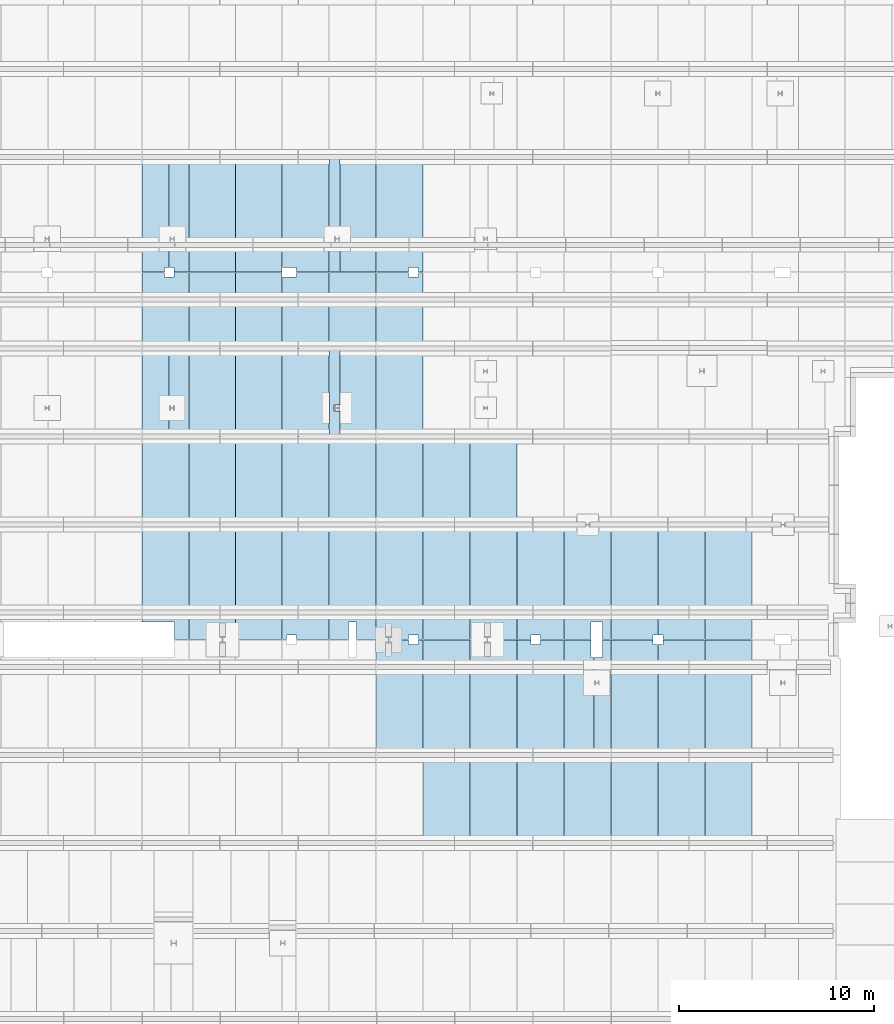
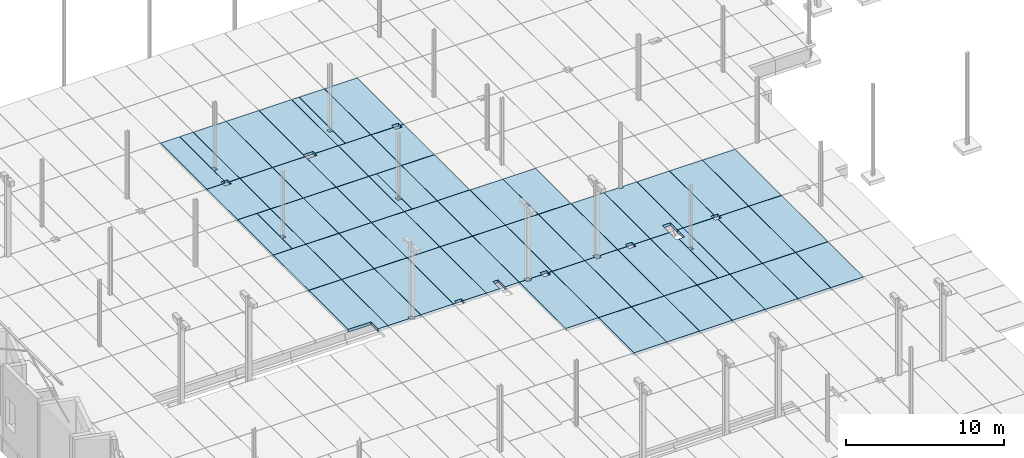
# One storey, part 50 of 59: 59 slabs.
"""IFC2X3 building model written with IfcOpenShell, lengths in metres."""

from ifc_helpers import new_model, entity, si_unit, converted_unit, derived_unit, frame, frame_2d, origin, origin_with_axes, place, context, subcontext, project, spatial, polyline, rectangle, outline, extrude, material, element, save


model = new_model("IFC2X3")

# Units and contexts
model_context = context("Model", 3, precision=1e-05, world=origin())
body_context = subcontext(model_context, "Body", "Model", "MODEL_VIEW")
ifc_project = project(units=[si_unit("LENGTHUNIT", "METRE"), si_unit("AREAUNIT", "SQUARE_METRE"), si_unit("VOLUMEUNIT", "CUBIC_METRE"), si_unit("MASSUNIT", "GRAM", prefix="KILO"), converted_unit("PLANEANGLEUNIT", "DEGREE", entity("IfcPlaneAngleMeasure", 0.0174532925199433), si_unit("PLANEANGLEUNIT", "RADIAN"), dimensions=[0, 0, 0, 0, 0, 0, 0]), derived_unit("THERMALTRANSMITTANCEUNIT", [(si_unit("POWERUNIT", "WATT"), 1), (si_unit("THERMODYNAMICTEMPERATUREUNIT", "KELVIN"), -1), (si_unit("LENGTHUNIT", "METRE"), -2)]), derived_unit("VOLUMETRICFLOWRATEUNIT", [(si_unit("LENGTHUNIT", "METRE"), 3), (converted_unit("TIMEUNIT", "hour", entity("IfcTimeMeasure", 3600.0), si_unit("TIMEUNIT", "SECOND"), dimensions=[0, 0, 1, 0, 0, 0, 0]), -1), (si_unit("LENGTHUNIT", "METRE"), -1)])], contexts=[model_context])

# Site, building, storey
site_placement = place(None, origin())
site = spatial("IfcSite", under=ifc_project, at=site_placement, Name="TWP_Speiseverteilzentrum SBW VZ II", CompositionType="ELEMENT")
building_placement = place(site_placement, origin())
building = spatial("IfcBuilding", under=site, at=building_placement, Name="Speiseverteilzentrum SBW VZ II", CompositionType="ELEMENT")
storey_placement = place(building_placement, frame((0.0, 0.0, 1.7307)))
storey = spatial("IfcBuildingStorey", under=building, at=storey_placement, Name="EG_Produktion_FFB", CompositionType="ELEMENT", Elevation=1.7307)

# Slabs
ifc_material_1 = material(Name="Stahlbetonfertigteil")
slab_1_placement = place(storey_placement, frame((43.1999999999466, 62.0100000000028, -0.47)))
element("IfcSlab", 1, at=slab_1_placement, inside=storey, material=ifc_material_1, Name="Stahlbetonfertigteilplatte", PredefinedType="BASESLAB", context=body_context, shape_type="SweptSolid", body=[
    extrude(outline(polyline([(0.240000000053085, 1.59790584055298), (0.540000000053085, 1.59790584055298), (0.540000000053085, 4.47999999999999), (0.0, 4.47999999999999), (0.0, 0.0), (0.540000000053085, 0.0), (0.540000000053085, 1.28790584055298), (0.240000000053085, 1.28790584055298), (0.240000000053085, 1.59790584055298)])), origin_with_axes(), (0.0, 0.0, 1.0), 0.22),
])
ifc_material_2 = material(Name="Stahlbetonfertigteil")
slab_2_placement = place(storey_placement, frame((43.7599999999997, 62.0100000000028, -0.47)))
element("IfcSlab", 2, at=slab_2_placement, inside=storey, material=ifc_material_2, Name="Stahlbetonfertigteilplatte", PredefinedType="BASESLAB", context=body_context, shape_type="SweptSolid", body=[
    extrude(rectangle(XDim=4.47999999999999, YDim=1.81999999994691, at=frame_2d((0.909999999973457, -2.23999999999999), x_axis=(0.0, -1.0))), frame((0.0, 4.47999999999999, 0.0), z_axis=(0.0, 0.0, 1.0), x_axis=(1.0, 0.0, 0.0)), (0.0, 0.0, 1.0), 0.22),
])
ifc_material_3 = material(Name="Stahlbetonfertigteil")
slab_3_placement = place(storey_placement, frame((33.5999999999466, 62.0100000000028, -0.47)))
element("IfcSlab", 3, at=slab_3_placement, inside=storey, material=ifc_material_3, Name="Stahlbetonfertigteilplatte", PredefinedType="BASESLAB", context=body_context, shape_type="SweptSolid", body=[
    extrude(rectangle(XDim=4.47999999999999, YDim=1.38500000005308, at=frame_2d((-0.692500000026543, 2.23999999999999), x_axis=(0.0, 1.0))), frame((1.38500000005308, 0.0, 0.0), z_axis=(0.0, 0.0, 1.0), x_axis=(1.0, 0.0, 0.0)), (0.0, 0.0, 1.0), 0.22),
])
ifc_material_4 = material(Name="Stahlbetonfertigteil")
slab_4_placement = place(storey_placement, frame((35.0049999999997, 62.0100000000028, -0.47)))
element("IfcSlab", 4, at=slab_4_placement, inside=storey, material=ifc_material_4, Name="Stahlbetonfertigteilplatte", PredefinedType="BASESLAB", context=body_context, shape_type="SweptSolid", body=[
    extrude(outline(polyline([(0.974999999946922, 4.47999999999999), (0.0, 4.47999999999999), (0.0, 1.58790584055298), (0.28, 1.58790584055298), (0.28, 1.29790584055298), (0.0, 1.29790584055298), (0.0, 0.0), (0.974999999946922, 0.0), (0.974999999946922, 4.47999999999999)])), origin_with_axes(), (0.0, 0.0, 1.0), 0.22),
])
ifc_material_5 = material(Name="Stahlbetonfertigteil")
slab_5_placement = place(storey_placement, frame((35.9999999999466, 62.0100000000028, -0.47)))
element("IfcSlab", 5, at=slab_5_placement, inside=storey, material=ifc_material_5, Name="Stahlbetonfertigteilplatte", PredefinedType="BASESLAB", context=body_context, shape_type="SweptSolid", body=[
    extrude(rectangle(XDim=4.47999999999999, YDim=2.38, at=frame_2d((1.19, -2.23999999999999), x_axis=(0.0, -1.0))), frame((0.0, 4.47999999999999, 0.0), z_axis=(0.0, 0.0, 1.0), x_axis=(1.0, 0.0, 0.0)), (0.0, 0.0, 1.0), 0.22),
])
ifc_material_6 = material(Name="Stahlbetonfertigteil")
slab_6_placement = place(storey_placement, frame((33.5999999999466, 57.5100000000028, -0.47)))
element("IfcSlab", 6, at=slab_6_placement, inside=storey, material=ifc_material_6, Name="Stahlbetonfertigteilplatte", PredefinedType="BASESLAB", context=body_context, shape_type="SweptSolid", body=[
    extrude(rectangle(XDim=4.47999999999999, YDim=2.38, at=frame_2d((1.19, -2.23999999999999), x_axis=(0.0, -1.0))), frame((0.0, 4.47999999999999, 0.0), z_axis=(0.0, 0.0, 1.0), x_axis=(1.0, 0.0, 0.0)), (0.0, 0.0, 1.0), 0.22),
])
ifc_material_7 = material(Name="Stahlbetonfertigteil")
slab_7_placement = place(storey_placement, frame((35.9999999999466, 57.5100000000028, -0.47)))
element("IfcSlab", 7, at=slab_7_placement, inside=storey, material=ifc_material_7, Name="Stahlbetonfertigteilplatte", PredefinedType="BASESLAB", context=body_context, shape_type="SweptSolid", body=[
    extrude(rectangle(XDim=4.47999999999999, YDim=2.38, at=frame_2d((1.19, -2.23999999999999), x_axis=(0.0, -1.0))), frame((0.0, 4.47999999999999, 0.0), z_axis=(0.0, 0.0, 1.0), x_axis=(1.0, 0.0, 0.0)), (0.0, 0.0, 1.0), 0.22),
])
ifc_material_8 = material(Name="Stahlbetonfertigteil")
slab_8_placement = place(storey_placement, frame((38.3999999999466, 62.0100000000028, -0.47)))
element("IfcSlab", 8, at=slab_8_placement, inside=storey, material=ifc_material_8, Name="Stahlbetonfertigteilplatte", PredefinedType="BASESLAB", context=body_context, shape_type="SweptSolid", body=[
    extrude(rectangle(XDim=4.47999999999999, YDim=2.38, at=frame_2d((1.19, -2.23999999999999), x_axis=(0.0, -1.0))), frame((0.0, 4.47999999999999, 0.0), z_axis=(0.0, 0.0, 1.0), x_axis=(1.0, 0.0, 0.0)), (0.0, 0.0, 1.0), 0.22),
])
ifc_material_9 = material(Name="Stahlbetonfertigteil")
slab_9_placement = place(storey_placement, frame((40.7999999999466, 62.0100000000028, -0.47)))
element("IfcSlab", 9, at=slab_9_placement, inside=storey, material=ifc_material_9, Name="Stahlbetonfertigteilplatte", PredefinedType="BASESLAB", context=body_context, shape_type="SweptSolid", body=[
    extrude(rectangle(XDim=4.47999999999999, YDim=2.38, at=frame_2d((1.19, -2.23999999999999), x_axis=(0.0, -1.0))), frame((0.0, 4.47999999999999, 0.0), z_axis=(0.0, 0.0, 1.0), x_axis=(1.0, 0.0, 0.0)), (0.0, 0.0, 1.0), 0.22),
])
ifc_material_10 = material(Name="Stahlbetonfertigteil")
slab_10_placement = place(storey_placement, frame((38.3999999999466, 57.5100000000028, -0.47)))
element("IfcSlab", 10, at=slab_10_placement, inside=storey, material=ifc_material_10, Name="Stahlbetonfertigteilplatte", PredefinedType="BASESLAB", context=body_context, shape_type="SweptSolid", body=[
    extrude(rectangle(XDim=4.47999999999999, YDim=2.38, at=frame_2d((1.19, -2.23999999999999), x_axis=(0.0, -1.0))), frame((0.0, 4.47999999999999, 0.0), z_axis=(0.0, 0.0, 1.0), x_axis=(1.0, 0.0, 0.0)), (0.0, 0.0, 1.0), 0.22),
])
ifc_material_11 = material(Name="Stahlbetonfertigteil")
slab_11_placement = place(storey_placement, frame((40.7999999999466, 57.5100000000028, -0.47)))
element("IfcSlab", 11, at=slab_11_placement, inside=storey, material=ifc_material_11, Name="Stahlbetonfertigteilplatte", PredefinedType="BASESLAB", context=body_context, shape_type="SweptSolid", body=[
    extrude(rectangle(XDim=4.47999999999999, YDim=2.38, at=frame_2d((1.19, -2.23999999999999), x_axis=(0.0, -1.0))), frame((0.0, 4.47999999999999, 0.0), z_axis=(0.0, 0.0, 1.0), x_axis=(1.0, 0.0, 0.0)), (0.0, 0.0, 1.0), 0.22),
])
ifc_material_12 = material(Name="Stahlbetonfertigteil")
slab_12_placement = place(storey_placement, frame((45.5999999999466, 62.0100000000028, -0.47)))
element("IfcSlab", 12, at=slab_12_placement, inside=storey, material=ifc_material_12, Name="Stahlbetonfertigteilplatte", PredefinedType="BASESLAB", context=body_context, shape_type="SweptSolid", body=[
    extrude(rectangle(XDim=4.47999999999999, YDim=2.38, at=frame_2d((1.19, -2.23999999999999), x_axis=(0.0, -1.0))), frame((0.0, 4.47999999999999, 0.0), z_axis=(0.0, 0.0, 1.0), x_axis=(1.0, 0.0, 0.0)), (0.0, 0.0, 1.0), 0.22),
])
ifc_material_13 = material(Name="Stahlbetonfertigteil")
slab_13_placement = place(storey_placement, frame((43.1999999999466, 57.5100000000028, -0.47)))
element("IfcSlab", 13, at=slab_13_placement, inside=storey, material=ifc_material_13, Name="Stahlbetonfertigteilplatte", PredefinedType="BASESLAB", context=body_context, shape_type="SweptSolid", body=[
    extrude(rectangle(XDim=4.47999999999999, YDim=2.38, at=frame_2d((1.19, -2.23999999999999), x_axis=(0.0, -1.0))), frame((0.0, 4.47999999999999, 0.0), z_axis=(0.0, 0.0, 1.0), x_axis=(1.0, 0.0, 0.0)), (0.0, 0.0, 1.0), 0.22),
])
ifc_material_14 = material(Name="Stahlbetonfertigteil")
slab_14_placement = place(storey_placement, frame((45.5999999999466, 57.5100000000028, -0.47)))
element("IfcSlab", 14, at=slab_14_placement, inside=storey, material=ifc_material_14, Name="Stahlbetonfertigteilplatte", PredefinedType="BASESLAB", context=body_context, shape_type="SweptSolid", body=[
    extrude(rectangle(XDim=4.47999999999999, YDim=2.38, at=frame_2d((1.19, -2.23999999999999), x_axis=(0.0, -1.0))), frame((0.0, 4.47999999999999, 0.0), z_axis=(0.0, 0.0, 1.0), x_axis=(1.0, 0.0, 0.0)), (0.0, 0.0, 1.0), 0.22),
])
ifc_material_15 = material(Name="Stahlbetonfertigteil")
slab_15_placement = place(storey_placement, frame((47.9999999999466, 57.5100000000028, -0.47)))
element("IfcSlab", 15, at=slab_15_placement, inside=storey, material=ifc_material_15, Name="Stahlbetonfertigteilplatte", PredefinedType="BASESLAB", context=body_context, shape_type="SweptSolid", body=[
    extrude(rectangle(XDim=4.47999999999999, YDim=2.38, at=frame_2d((1.19, -2.23999999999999), x_axis=(0.0, -1.0))), frame((0.0, 4.47999999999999, 0.0), z_axis=(0.0, 0.0, 1.0), x_axis=(1.0, 0.0, 0.0)), (0.0, 0.0, 1.0), 0.22),
])
ifc_material_16 = material(Name="Stahlbetonfertigteil")
slab_16_placement = place(storey_placement, frame((50.3999999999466, 57.5100000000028, -0.47)))
element("IfcSlab", 16, at=slab_16_placement, inside=storey, material=ifc_material_16, Name="Stahlbetonfertigteilplatte", PredefinedType="BASESLAB", context=body_context, shape_type="SweptSolid", body=[
    extrude(rectangle(XDim=4.47999999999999, YDim=2.38, at=frame_2d((1.19, -2.23999999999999), x_axis=(0.0, -1.0))), frame((0.0, 4.47999999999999, 0.0), z_axis=(0.0, 0.0, 1.0), x_axis=(1.0, 0.0, 0.0)), (0.0, 0.0, 1.0), 0.22),
])
ifc_material_17 = material(Name="Stahlbetonfertigteil")
slab_17_placement = place(storey_placement, frame((47.9999999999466, 41.2100000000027, -0.47)))
element("IfcSlab", 17, at=slab_17_placement, inside=storey, material=ifc_material_17, Name="Stahlbetonfertigteilplatte", PredefinedType="BASESLAB", context=body_context, shape_type="SweptSolid", body=[
    extrude(rectangle(XDim=4.47999999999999, YDim=2.38, at=frame_2d((1.19, -2.23999999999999), x_axis=(0.0, -1.0))), frame((0.0, 4.47999999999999, 0.0), z_axis=(0.0, 0.0, 1.0), x_axis=(1.0, 0.0, 0.0)), (0.0, 0.0, 1.0), 0.22),
])
ifc_material_18 = material(Name="Stahlbetonfertigteil")
slab_18_placement = place(storey_placement, frame((50.3999999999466, 41.2100000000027, -0.47)))
element("IfcSlab", 18, at=slab_18_placement, inside=storey, material=ifc_material_18, Name="Stahlbetonfertigteilplatte", PredefinedType="BASESLAB", context=body_context, shape_type="SweptSolid", body=[
    extrude(rectangle(XDim=4.47999999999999, YDim=2.38, at=frame_2d((1.19, -2.23999999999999), x_axis=(0.0, -1.0))), frame((0.0, 4.47999999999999, 0.0), z_axis=(0.0, 0.0, 1.0), x_axis=(1.0, 0.0, 0.0)), (0.0, 0.0, 1.0), 0.22),
])
ifc_material_19 = material(Name="Stahlbetonfertigteil")
slab_19_placement = place(storey_placement, frame((52.7999999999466, 41.2100000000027, -0.47)))
element("IfcSlab", 19, at=slab_19_placement, inside=storey, material=ifc_material_19, Name="Stahlbetonfertigteilplatte", PredefinedType="BASESLAB", context=body_context, shape_type="SweptSolid", body=[
    extrude(rectangle(XDim=4.47999999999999, YDim=2.38, at=frame_2d((1.19, -2.23999999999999), x_axis=(0.0, -1.0))), frame((0.0, 4.47999999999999, 0.0), z_axis=(0.0, 0.0, 1.0), x_axis=(1.0, 0.0, 0.0)), (0.0, 0.0, 1.0), 0.22),
])
ifc_material_20 = material(Name="Stahlbetonfertigteil")
slab_20_placement = place(storey_placement, frame((55.1999999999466, 41.2100000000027, -0.47)))
element("IfcSlab", 20, at=slab_20_placement, inside=storey, material=ifc_material_20, Name="Stahlbetonfertigteilplatte", PredefinedType="BASESLAB", context=body_context, shape_type="SweptSolid", body=[
    extrude(rectangle(XDim=4.47999999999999, YDim=2.38, at=frame_2d((1.19, -2.23999999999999), x_axis=(0.0, -1.0))), frame((0.0, 4.47999999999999, 0.0), z_axis=(0.0, 0.0, 1.0), x_axis=(1.0, 0.0, 0.0)), (0.0, 0.0, 1.0), 0.22),
])
ifc_material_21 = material(Name="Stahlbetonfertigteil")
slab_21_placement = place(storey_placement, frame((57.5999999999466, 41.2100000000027, -0.47)))
element("IfcSlab", 21, at=slab_21_placement, inside=storey, material=ifc_material_21, Name="Stahlbetonfertigteilplatte", PredefinedType="BASESLAB", context=body_context, shape_type="SweptSolid", body=[
    extrude(rectangle(XDim=4.47999999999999, YDim=2.38, at=frame_2d((1.19, -2.23999999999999), x_axis=(0.0, -1.0))), frame((0.0, 4.47999999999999, 0.0), z_axis=(0.0, 0.0, 1.0), x_axis=(1.0, 0.0, 0.0)), (0.0, 0.0, 1.0), 0.22),
])
ifc_material_22 = material(Name="Stahlbetonfertigteil")
slab_22_placement = place(storey_placement, frame((59.9999999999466, 41.2100000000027, -0.47)))
element("IfcSlab", 22, at=slab_22_placement, inside=storey, material=ifc_material_22, Name="Stahlbetonfertigteilplatte", PredefinedType="BASESLAB", context=body_context, shape_type="SweptSolid", body=[
    extrude(rectangle(XDim=4.47999999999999, YDim=2.38, at=frame_2d((1.19, -2.23999999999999), x_axis=(0.0, -1.0))), frame((0.0, 4.47999999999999, 0.0), z_axis=(0.0, 0.0, 1.0), x_axis=(1.0, 0.0, 0.0)), (0.0, 0.0, 1.0), 0.22),
])
ifc_material_23 = material(Name="Stahlbetonfertigteil")
slab_23_placement = place(storey_placement, frame((62.3999999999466, 41.2100000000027, -0.47)))
element("IfcSlab", 23, at=slab_23_placement, inside=storey, material=ifc_material_23, Name="Stahlbetonfertigteilplatte", PredefinedType="BASESLAB", context=body_context, shape_type="SweptSolid", body=[
    extrude(rectangle(XDim=4.47999999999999, YDim=2.38, at=frame_2d((1.19, -2.23999999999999), x_axis=(0.0, -1.0))), frame((0.0, 4.47999999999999, 0.0), z_axis=(0.0, 0.0, 1.0), x_axis=(1.0, 0.0, 0.0)), (0.0, 0.0, 1.0), 0.22),
])
ifc_material_24 = material(Name="Stahlbetonfertigteil")
slab_24_placement = place(storey_placement, frame((33.5999999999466, 70.4104127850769, -0.47)))
element("IfcSlab", 24, at=slab_24_placement, inside=storey, material=ifc_material_24, Name="Stahlbetonfertigteilplatte", PredefinedType="BASESLAB", context=body_context, shape_type="SweptSolid", body=[
    extrude(outline(polyline([(1.15000000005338, 0.0), (1.15000000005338, 0.239587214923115), (1.38500000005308, 0.239587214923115), (1.38500000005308, 5.87958721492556), (0.0, 5.87958721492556), (0.0, 0.0), (1.15000000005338, 0.0)])), origin_with_axes(), (0.0, 0.0, 1.0), 0.22),
])
ifc_material_25 = material(Name="Stahlbetonfertigteil")
slab_25_placement = place(storey_placement, frame((45.5999999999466, 66.5102063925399, -0.47)))
element("IfcSlab", 25, at=slab_25_placement, inside=storey, material=ifc_material_25, Name="Stahlbetonfertigteilplatte", PredefinedType="BASESLAB", context=body_context, shape_type="SweptSolid", body=[
    extrude(outline(polyline([(1.65000000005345, 3.63979360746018), (1.65000000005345, 3.8799999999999), (0.0, 3.8799999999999), (0.0, 0.0), (2.38, 0.0), (2.38, 3.8799999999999), (2.15000000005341, 3.8799999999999), (2.15000000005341, 3.63979360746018), (1.65000000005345, 3.63979360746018)])), origin_with_axes(), (0.0, 0.0, 1.0), 0.22),
])
ifc_material_26 = material(Name="Stahlbetonfertigteil")
slab_26_placement = place(storey_placement, frame((45.5999999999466, 70.4104127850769, -0.47)))
element("IfcSlab", 26, at=slab_26_placement, inside=storey, material=ifc_material_26, Name="Stahlbetonfertigteilplatte", PredefinedType="BASESLAB", context=body_context, shape_type="SweptSolid", body=[
    extrude(outline(polyline([(1.65000000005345, 0.0), (1.65000000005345, 0.239587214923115), (2.15000000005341, 0.239587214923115), (2.15000000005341, 0.0), (2.38, 0.0), (2.38, 5.87958721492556), (0.0, 5.87958721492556), (0.0, 0.0), (1.65000000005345, 0.0)])), origin_with_axes(), (0.0, 0.0, 1.0), 0.22),
])
ifc_material_27 = material(Name="Stahlbetonfertigteil")
slab_27_placement = place(storey_placement, frame((38.3999999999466, 66.5102063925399, -0.47)))
element("IfcSlab", 27, at=slab_27_placement, inside=storey, material=ifc_material_27, Name="Stahlbetonfertigteilplatte", PredefinedType="BASESLAB", context=body_context, shape_type="SweptSolid", body=[
    extrude(rectangle(XDim=2.38, YDim=3.8799999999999, at=frame_2d((-1.19, -1.93999999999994), x_axis=(-1.0, 0.0))), frame((2.38, 3.8799999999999, 0.0), z_axis=(0.0, 0.0, 1.0), x_axis=(1.0, 0.0, 0.0)), (0.0, 0.0, 1.0), 0.22),
])
ifc_material_28 = material(Name="Stahlbetonfertigteil")
slab_28_placement = place(storey_placement, frame((38.3999999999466, 70.4104127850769, -0.47)))
element("IfcSlab", 28, at=slab_28_placement, inside=storey, material=ifc_material_28, Name="Stahlbetonfertigteilplatte", PredefinedType="BASESLAB", context=body_context, shape_type="SweptSolid", body=[
    extrude(rectangle(XDim=5.87958721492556, YDim=2.38, at=frame_2d((-1.19, 2.93979360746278), x_axis=(0.0, 1.0))), frame((2.38, 0.0, 0.0), z_axis=(0.0, 0.0, 1.0), x_axis=(1.0, 0.0, 0.0)), (0.0, 0.0, 1.0), 0.22),
])
ifc_material_29 = material(Name="Stahlbetonfertigteil")
slab_29_placement = place(storey_placement, frame((40.7999999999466, 70.4104127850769, -0.47)))
element("IfcSlab", 29, at=slab_29_placement, inside=storey, material=ifc_material_29, Name="Stahlbetonfertigteilplatte", PredefinedType="BASESLAB", context=body_context, shape_type="SweptSolid", body=[
    extrude(outline(polyline([(0.700000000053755, 0.0), (2.38, 0.0), (2.38, 5.87958721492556), (0.0, 5.87958721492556), (0.0, 0.239587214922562), (0.700000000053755, 0.239587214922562), (0.700000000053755, 0.0)])), origin_with_axes(), (0.0, 0.0, 1.0), 0.22),
])
ifc_material_30 = material(Name="Stahlbetonfertigteil")
slab_30_placement = place(storey_placement, frame((40.7999999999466, 66.5102063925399, -0.47)))
element("IfcSlab", 30, at=slab_30_placement, inside=storey, material=ifc_material_30, Name="Stahlbetonfertigteilplatte", PredefinedType="BASESLAB", context=body_context, shape_type="SweptSolid", body=[
    extrude(outline(polyline([(0.0, 3.63979360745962), (0.0, 0.0), (2.38, 0.0), (2.38, 3.8799999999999), (0.700000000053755, 3.8799999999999), (0.700000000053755, 3.63979360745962), (0.0, 3.63979360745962)])), origin_with_axes(), (0.0, 0.0, 1.0), 0.22),
])
ifc_material_31 = material(Name="Stahlbetonfertigteil")
slab_31_placement = place(storey_placement, frame((33.5999999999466, 66.5102063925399, -0.47)))
element("IfcSlab", 31, at=slab_31_placement, inside=storey, material=ifc_material_31, Name="Stahlbetonfertigteilplatte", PredefinedType="BASESLAB", context=body_context, shape_type="SweptSolid", body=[
    extrude(outline(polyline([(1.15000000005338, 3.63979360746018), (1.15000000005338, 3.8799999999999), (0.0, 3.8799999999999), (0.0, 0.0), (2.38, 0.0), (2.38, 3.8799999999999), (1.65000000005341, 3.8799999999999), (1.65000000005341, 3.63979360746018), (1.15000000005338, 3.63979360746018)])), origin_with_axes(), (0.0, 0.0, 1.0), 0.22),
])
ifc_material_32 = material(Name="Stahlbetonfertigteil")
slab_32_placement = place(storey_placement, frame((57.5999999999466, 51.6100000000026, -0.47)))
element("IfcSlab", 32, at=slab_32_placement, inside=storey, material=ifc_material_32, Name="Stahlbetonfertigteilplatte", PredefinedType="BASESLAB", context=body_context, shape_type="SweptSolid", body=[
    extrude(outline(polyline([(2.38, 0.239999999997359), (2.38, 5.87999999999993), (0.0, 5.87999999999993), (0.0, 0.0), (2.15000000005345, 0.0), (2.15000000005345, 0.239999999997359), (2.38, 0.239999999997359)])), origin_with_axes(), (0.0, 0.0, 1.0), 0.22),
])
ifc_material_33 = material(Name="Stahlbetonfertigteil")
slab_33_placement = place(storey_placement, frame((59.9999999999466, 51.6100000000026, -0.47)))
element("IfcSlab", 33, at=slab_33_placement, inside=storey, material=ifc_material_33, Name="Stahlbetonfertigteilplatte", PredefinedType="BASESLAB", context=body_context, shape_type="SweptSolid", body=[
    extrude(outline(polyline([(2.38, 0.0), (2.38, 5.87999999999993), (0.0, 5.87999999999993), (0.0, 0.239999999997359), (0.250000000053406, 0.239999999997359), (0.250000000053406, 0.0), (2.38, 0.0)])), origin_with_axes(), (0.0, 0.0, 1.0), 0.22),
])
ifc_material_34 = material(Name="Stahlbetonfertigteil")
slab_34_placement = place(storey_placement, frame((52.7999999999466, 51.6100000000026, -0.47)))
element("IfcSlab", 34, at=slab_34_placement, inside=storey, material=ifc_material_34, Name="Stahlbetonfertigteilplatte", PredefinedType="BASESLAB", context=body_context, shape_type="SweptSolid", body=[
    extrude(outline(polyline([(1.20000000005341, 0.239999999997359), (1.20000000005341, 0.0), (2.38, 0.0), (2.38, 5.87999999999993), (0.0, 5.87999999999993), (0.0, 0.0), (0.700000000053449, 0.0), (0.700000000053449, 0.239999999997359), (1.20000000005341, 0.239999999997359)])), origin_with_axes(), (0.0, 0.0, 1.0), 0.22),
])
ifc_material_35 = material(Name="Stahlbetonfertigteil")
slab_35_placement = place(storey_placement, frame((43.1999999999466, 51.6100000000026, -0.47)))
element("IfcSlab", 35, at=slab_35_placement, inside=storey, material=ifc_material_35, Name="Stahlbetonfertigteilplatte", PredefinedType="BASESLAB", context=body_context, shape_type="SweptSolid", body=[
    extrude(outline(polyline([(1.37500000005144, 0.0), (2.38, 0.0), (2.38, 5.87999999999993), (0.0, 5.87999999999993), (0.0, 0.0), (0.975000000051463, 0.0), (0.975000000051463, 0.889999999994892), (1.37500000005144, 0.889999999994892), (1.37500000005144, 0.0)])), origin_with_axes(), (0.0, 0.0, 1.0), 0.22),
])
ifc_material_36 = material(Name="Stahlbetonfertigteil")
slab_36_placement = place(storey_placement, frame((33.5999999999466, 51.6100000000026, -0.47)))
element("IfcSlab", 36, at=slab_36_placement, inside=storey, material=ifc_material_36, Name="Stahlbetonfertigteilplatte", PredefinedType="BASESLAB", context=body_context, shape_type="SweptSolid", body=[
    extrude(outline(polyline([(0.0, 0.899999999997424), (1.67500000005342, 0.899999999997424), (1.67500000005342, 0.0), (2.38, 0.0), (2.38, 5.87999999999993), (0.0, 5.87999999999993), (0.0, 0.899999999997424)])), origin_with_axes(), (0.0, 0.0, 1.0), 0.22),
])
ifc_material_37 = material(Name="Stahlbetonfertigteil")
slab_37_placement = place(storey_placement, frame((35.9999999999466, 70.4104127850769, -0.47)))
element("IfcSlab", 37, at=slab_37_placement, inside=storey, material=ifc_material_37, Name="Stahlbetonfertigteilplatte", PredefinedType="BASESLAB", context=body_context, shape_type="SweptSolid", body=[
    extrude(rectangle(XDim=5.87958721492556, YDim=2.38, at=frame_2d((1.19, -2.93979360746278), x_axis=(0.0, -1.0))), frame((0.0, 5.87958721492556, 0.0), z_axis=(0.0, 0.0, 1.0), x_axis=(1.0, 0.0, 0.0)), (0.0, 0.0, 1.0), 0.22),
])
ifc_material_38 = material(Name="Stahlbetonfertigteil")
slab_38_placement = place(storey_placement, frame((35.9999999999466, 66.5102063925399, -0.47)))
element("IfcSlab", 38, at=slab_38_placement, inside=storey, material=ifc_material_38, Name="Stahlbetonfertigteilplatte", PredefinedType="BASESLAB", context=body_context, shape_type="SweptSolid", body=[
    extrude(rectangle(XDim=3.8799999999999, YDim=2.38, at=frame_2d((1.19, -1.93999999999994), x_axis=(0.0, -1.0))), frame((0.0, 3.8799999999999, 0.0), z_axis=(0.0, 0.0, 1.0), x_axis=(1.0, 0.0, 0.0)), (0.0, 0.0, 1.0), 0.22),
])
ifc_material_39 = material(Name="Stahlbetonfertigteil")
slab_39_placement = place(storey_placement, frame((38.3999999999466, 51.6100000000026, -0.47)))
element("IfcSlab", 39, at=slab_39_placement, inside=storey, material=ifc_material_39, Name="Stahlbetonfertigteilplatte", PredefinedType="BASESLAB", context=body_context, shape_type="SweptSolid", body=[
    extrude(rectangle(XDim=5.87999999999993, YDim=2.38, at=frame_2d((1.19, -2.93999999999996), x_axis=(0.0, -1.0))), frame((0.0, 5.87999999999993, 0.0), z_axis=(0.0, 0.0, 1.0), x_axis=(1.0, 0.0, 0.0)), (0.0, 0.0, 1.0), 0.22),
])
ifc_material_40 = material(Name="Stahlbetonfertigteil")
slab_40_placement = place(storey_placement, frame((43.1999999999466, 66.5102063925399, -0.47)))
element("IfcSlab", 40, at=slab_40_placement, inside=storey, material=ifc_material_40, Name="Stahlbetonfertigteilplatte", PredefinedType="BASESLAB", context=body_context, shape_type="SweptSolid", body=[
    extrude(rectangle(XDim=3.8799999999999, YDim=2.38, at=frame_2d((1.19, -1.93999999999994), x_axis=(0.0, -1.0))), frame((0.0, 3.8799999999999, 0.0), z_axis=(0.0, 0.0, 1.0), x_axis=(1.0, 0.0, 0.0)), (0.0, 0.0, 1.0), 0.22),
])
ifc_material_41 = material(Name="Stahlbetonfertigteil")
slab_41_placement = place(storey_placement, frame((47.9999999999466, 51.6100000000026, -0.47)))
element("IfcSlab", 41, at=slab_41_placement, inside=storey, material=ifc_material_41, Name="Stahlbetonfertigteilplatte", PredefinedType="BASESLAB", context=body_context, shape_type="SweptSolid", body=[
    extrude(rectangle(XDim=5.87999999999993, YDim=2.38, at=frame_2d((1.19, -2.93999999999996), x_axis=(0.0, -1.0))), frame((0.0, 5.87999999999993, 0.0), z_axis=(0.0, 0.0, 1.0), x_axis=(1.0, 0.0, 0.0)), (0.0, 0.0, 1.0), 0.22),
])
ifc_material_42 = material(Name="Stahlbetonfertigteil")
slab_42_placement = place(storey_placement, frame((62.3999999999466, 51.6100000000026, -0.47)))
element("IfcSlab", 42, at=slab_42_placement, inside=storey, material=ifc_material_42, Name="Stahlbetonfertigteilplatte", PredefinedType="BASESLAB", context=body_context, shape_type="SweptSolid", body=[
    extrude(rectangle(XDim=5.87999999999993, YDim=2.38, at=frame_2d((1.19, -2.93999999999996), x_axis=(0.0, -1.0))), frame((0.0, 5.87999999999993, 0.0), z_axis=(0.0, 0.0, 1.0), x_axis=(1.0, 0.0, 0.0)), (0.0, 0.0, 1.0), 0.22),
])
ifc_material_43 = material(Name="Stahlbetonfertigteil")
slab_43_placement = place(storey_placement, frame((50.3999999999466, 51.6100000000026, -0.47)))
element("IfcSlab", 43, at=slab_43_placement, inside=storey, material=ifc_material_43, Name="Stahlbetonfertigteilplatte", PredefinedType="BASESLAB", context=body_context, shape_type="SweptSolid", body=[
    extrude(outline(polyline([(0.0, 0.0), (0.695000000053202, 0.0), (0.695000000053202, 0.194509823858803), (1.0550000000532, 0.194509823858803), (1.0550000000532, 0.0), (2.38, 0.0), (2.38, 5.87999999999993), (0.0, 5.87999999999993), (0.0, 0.0)])), origin_with_axes(), (0.0, 0.0, 1.0), 0.22),
])
ifc_material_44 = material(Name="Stahlbetonfertigteil")
slab_44_placement = place(storey_placement, frame((40.7999999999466, 51.6100000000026, -0.47)))
element("IfcSlab", 44, at=slab_44_placement, inside=storey, material=ifc_material_44, Name="Stahlbetonfertigteilplatte", PredefinedType="BASESLAB", context=body_context, shape_type="SweptSolid", body=[
    extrude(outline(polyline([(0.700000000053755, 0.0), (2.38, 0.0), (2.38, 5.87999999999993), (0.0, 5.87999999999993), (0.0, 0.0), (0.200000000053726, 0.0), (0.200000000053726, 0.239999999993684), (0.700000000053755, 0.239999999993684), (0.700000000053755, 0.0)])), origin_with_axes(), (0.0, 0.0, 1.0), 0.22),
])
ifc_material_45 = material(Name="Stahlbetonfertigteil")
slab_45_placement = place(storey_placement, frame((35.9999999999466, 51.6100000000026, -0.47)))
element("IfcSlab", 45, at=slab_45_placement, inside=storey, material=ifc_material_45, Name="Stahlbetonfertigteilplatte", PredefinedType="BASESLAB", context=body_context, shape_type="SweptSolid", body=[
    extrude(outline(polyline([(0.0, 0.0), (1.55500000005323, 0.0), (1.55500000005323, 0.165103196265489), (1.89500000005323, 0.165103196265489), (1.89500000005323, 0.0), (2.38, 0.0), (2.38, 5.87999999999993), (0.0, 5.87999999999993), (0.0, 0.0)])), origin_with_axes(), (0.0, 0.0, 1.0), 0.22),
])
ifc_material_46 = material(Name="Stahlbetonfertigteil")
slab_46_placement = place(storey_placement, frame((45.5999999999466, 51.6100000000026, -0.47)))
element("IfcSlab", 46, at=slab_46_placement, inside=storey, material=ifc_material_46, Name="Stahlbetonfertigteilplatte", PredefinedType="BASESLAB", context=body_context, shape_type="SweptSolid", body=[
    extrude(outline(polyline([(2.15000000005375, 0.0), (2.38, 0.0), (2.38, 5.87999999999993), (0.0, 5.87999999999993), (0.0, 0.0), (0.455000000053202, 0.0), (0.455000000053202, 0.165103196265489), (0.795000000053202, 0.165103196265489), (0.795000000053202, 0.0), (1.65000000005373, 0.0), (1.65000000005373, 0.239999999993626), (2.15000000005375, 0.239999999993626), (2.15000000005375, 0.0)])), origin_with_axes(), (0.0, 0.0, 1.0), 0.22),
])
ifc_material_47 = material(Name="Stahlbetonfertigteil")
slab_47_placement = place(storey_placement, frame((55.1999999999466, 51.6100000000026, -0.47)))
element("IfcSlab", 47, at=slab_47_placement, inside=storey, material=ifc_material_47, Name="Stahlbetonfertigteilplatte", PredefinedType="BASESLAB", context=body_context, shape_type="SweptSolid", body=[
    extrude(outline(polyline([(1.07445952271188, 5.7499999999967), (1.07445952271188, 5.87999999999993), (0.0, 5.87999999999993), (0.0, 0.0), (1.37500000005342, 0.0), (1.37500000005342, 0.89000000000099), (1.97500000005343, 0.89000000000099), (1.97500000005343, 0.0), (2.38, 0.0), (2.38, 5.87999999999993), (1.33445952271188, 5.87999999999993), (1.33445952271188, 5.7499999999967), (1.07445952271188, 5.7499999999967)])), origin_with_axes(), (0.0, 0.0, 1.0), 0.22),
])
ifc_material_48 = material(Name="Stahlbetonfertigteil")
slab_48_placement = place(storey_placement, frame((35.0049999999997, 70.4104127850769, -0.47)))
element("IfcSlab", 48, at=slab_48_placement, inside=storey, material=ifc_material_48, Name="Stahlbetonfertigteilplatte", PredefinedType="BASESLAB", context=body_context, shape_type="SweptSolid", body=[
    extrude(outline(polyline([(0.28, 1.55408872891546), (0.0, 1.55408872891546), (0.0, 0.239587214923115), (0.245000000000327, 0.239587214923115), (0.245000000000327, 0.0), (0.974999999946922, 0.0), (0.974999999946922, 5.87958721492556), (0.0, 5.87958721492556), (0.0, 1.84408872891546), (0.28, 1.84408872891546), (0.28, 1.55408872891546)])), origin_with_axes(), (0.0, 0.0, 1.0), 0.22),
])
ifc_material_49 = material(Name="Stahlbetonfertigteil")
slab_49_placement = place(storey_placement, frame((43.1999999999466, 70.4104127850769, -0.47)))
element("IfcSlab", 49, at=slab_49_placement, inside=storey, material=ifc_material_49, Name="Stahlbetonfertigteilplatte", PredefinedType="BASESLAB", context=body_context, shape_type="SweptSolid", body=[
    extrude(outline(polyline([(0.239680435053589, 1.84408872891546), (0.51968043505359, 1.84408872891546), (0.51968043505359, 5.87958721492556), (0.0, 5.87958721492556), (0.0, 0.0), (0.51968043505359, 0.0), (0.51968043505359, 1.55408872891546), (0.239680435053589, 1.55408872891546), (0.239680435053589, 1.84408872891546)])), origin_with_axes(), (0.0, 0.0, 1.0), 0.22),
])
ifc_material_50 = material(Name="Stahlbetonfertigteil")
slab_50_placement = place(storey_placement, frame((43.7396804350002, 70.4104127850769, -0.47)))
element("IfcSlab", 50, at=slab_50_placement, inside=storey, material=ifc_material_50, Name="Stahlbetonfertigteilplatte", PredefinedType="BASESLAB", context=body_context, shape_type="SweptSolid", body=[
    extrude(rectangle(XDim=5.87958721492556, YDim=1.84031956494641, at=frame_2d((0.920159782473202, -2.93979360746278), x_axis=(0.0, -1.0))), frame((0.0, 5.87958721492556, 0.0), z_axis=(0.0, 0.0, 1.0), x_axis=(1.0, 0.0, 0.0)), (0.0, 0.0, 1.0), 0.22),
])
ifc_material_51 = material(Name="Stahlbetonfertigteil")
slab_51_placement = place(storey_placement, frame((56.7550000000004, 45.7100000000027, -0.47)))
element("IfcSlab", 51, at=slab_51_placement, inside=storey, material=ifc_material_51, Name="Stahlbetonfertigteilplatte", PredefinedType="BASESLAB", context=body_context, shape_type="SweptSolid", body=[
    extrude(outline(polyline([(0.0, 3.82500000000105), (0.26, 3.82500000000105), (0.26, 3.55500000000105), (0.0, 3.55500000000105), (0.0, 0.0), (0.82499999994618, 0.0), (0.82499999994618, 5.87999999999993), (0.419999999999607, 5.87999999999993), (0.419999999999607, 4.98999999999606), (0.0, 4.98999999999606), (0.0, 3.82500000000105)])), origin_with_axes(), (0.0, 0.0, 1.0), 0.22),
])
ifc_material_52 = material(Name="Stahlbetonfertigteil")
slab_52_placement = place(storey_placement, frame((55.1999999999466, 45.7100000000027, -0.47)))
element("IfcSlab", 52, at=slab_52_placement, inside=storey, material=ifc_material_52, Name="Stahlbetonfertigteilplatte", PredefinedType="BASESLAB", context=body_context, shape_type="SweptSolid", body=[
    extrude(outline(polyline([(0.0, 5.87999999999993), (0.0, 0.0), (1.53500000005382, 0.0), (1.53500000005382, 4.98999999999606), (1.37500000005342, 4.98999999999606), (1.37500000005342, 5.87999999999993), (0.0, 5.87999999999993)])), origin_with_axes(), (0.0, 0.0, 1.0), 0.22),
])
ifc_material_53 = material(Name="Stahlbetonfertigteil")
slab_53_placement = place(storey_placement, frame((57.5999999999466, 45.7100000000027, -0.47)))
element("IfcSlab", 53, at=slab_53_placement, inside=storey, material=ifc_material_53, Name="Stahlbetonfertigteilplatte", PredefinedType="BASESLAB", context=body_context, shape_type="SweptSolid", body=[
    extrude(outline(polyline([(0.0, 0.0), (2.38, 0.0), (2.38, 5.63999999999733), (2.15000000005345, 5.63999999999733), (2.15000000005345, 5.87999999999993), (0.0, 5.87999999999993), (0.0, 0.0)])), origin_with_axes(), (0.0, 0.0, 1.0), 0.22),
])
ifc_material_54 = material(Name="Stahlbetonfertigteil")
slab_54_placement = place(storey_placement, frame((59.9999999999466, 45.7100000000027, -0.47)))
element("IfcSlab", 54, at=slab_54_placement, inside=storey, material=ifc_material_54, Name="Stahlbetonfertigteilplatte", PredefinedType="BASESLAB", context=body_context, shape_type="SweptSolid", body=[
    extrude(outline(polyline([(0.250000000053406, 5.63999999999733), (0.0, 5.63999999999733), (0.0, 0.0), (2.38, 0.0), (2.38, 5.87999999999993), (0.250000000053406, 5.87999999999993), (0.250000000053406, 5.63999999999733)])), origin_with_axes(), (0.0, 0.0, 1.0), 0.22),
])
ifc_material_55 = material(Name="Stahlbetonfertigteil")
slab_55_placement = place(storey_placement, frame((52.7999999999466, 45.7100000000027, -0.47)))
element("IfcSlab", 55, at=slab_55_placement, inside=storey, material=ifc_material_55, Name="Stahlbetonfertigteilplatte", PredefinedType="BASESLAB", context=body_context, shape_type="SweptSolid", body=[
    extrude(outline(polyline([(0.700000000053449, 5.63999999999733), (0.700000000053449, 5.87999999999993), (0.0, 5.87999999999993), (0.0, 0.0), (2.38, 0.0), (2.38, 5.87999999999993), (1.20000000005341, 5.87999999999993), (1.20000000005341, 5.63999999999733), (0.700000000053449, 5.63999999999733)])), origin_with_axes(), (0.0, 0.0, 1.0), 0.22),
])
ifc_material_56 = material(Name="Stahlbetonfertigteil")
slab_56_placement = place(storey_placement, frame((47.9999999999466, 45.7100000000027, -0.47)))
element("IfcSlab", 56, at=slab_56_placement, inside=storey, material=ifc_material_56, Name="Stahlbetonfertigteilplatte", PredefinedType="BASESLAB", context=body_context, shape_type="SweptSolid", body=[
    extrude(rectangle(XDim=5.87999999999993, YDim=2.38, at=frame_2d((1.19, -2.93999999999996), x_axis=(0.0, -1.0))), frame((0.0, 5.87999999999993, 0.0), z_axis=(0.0, 0.0, 1.0), x_axis=(1.0, 0.0, 0.0)), (0.0, 0.0, 1.0), 0.22),
])
ifc_material_57 = material(Name="Stahlbetonfertigteil")
slab_57_placement = place(storey_placement, frame((62.3999999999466, 45.7100000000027, -0.47)))
element("IfcSlab", 57, at=slab_57_placement, inside=storey, material=ifc_material_57, Name="Stahlbetonfertigteilplatte", PredefinedType="BASESLAB", context=body_context, shape_type="SweptSolid", body=[
    extrude(rectangle(XDim=5.87999999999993, YDim=2.38, at=frame_2d((1.19, -2.93999999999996), x_axis=(0.0, -1.0))), frame((0.0, 5.87999999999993, 0.0), z_axis=(0.0, 0.0, 1.0), x_axis=(1.0, 0.0, 0.0)), (0.0, 0.0, 1.0), 0.22),
])
ifc_material_58 = material(Name="Stahlbetonfertigteil")
slab_58_placement = place(storey_placement, frame((50.3999999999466, 45.7100000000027, -0.47)))
element("IfcSlab", 58, at=slab_58_placement, inside=storey, material=ifc_material_58, Name="Stahlbetonfertigteilplatte", PredefinedType="BASESLAB", context=body_context, shape_type="SweptSolid", body=[
    extrude(outline(polyline([(0.695000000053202, 5.68450982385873), (0.695000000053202, 5.87999999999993), (0.0, 5.87999999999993), (0.0, 0.0), (2.38, 0.0), (2.38, 5.87999999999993), (1.0550000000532, 5.87999999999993), (1.0550000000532, 5.68450982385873), (0.695000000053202, 5.68450982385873)])), origin_with_axes(), (0.0, 0.0, 1.0), 0.22),
])
ifc_material_59 = material(Name="Stahlbetonfertigteil")
slab_59_placement = place(storey_placement, frame((45.5999999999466, 45.7100000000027, -0.47)))
element("IfcSlab", 59, at=slab_59_placement, inside=storey, material=ifc_material_59, Name="Stahlbetonfertigteilplatte", PredefinedType="BASESLAB", context=body_context, shape_type="SweptSolid", body=[
    extrude(outline(polyline([(0.455000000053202, 5.71510319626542), (0.455000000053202, 5.87999999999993), (0.0, 5.87999999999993), (0.0, 0.0), (2.38, 0.0), (2.38, 5.87999999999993), (2.15000000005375, 5.87999999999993), (2.15000000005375, 5.6399999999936), (1.65000000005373, 5.6399999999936), (1.65000000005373, 5.87999999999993), (0.795000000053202, 5.87999999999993), (0.795000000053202, 5.71510319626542), (0.455000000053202, 5.71510319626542)])), origin_with_axes(), (0.0, 0.0, 1.0), 0.22),
])

save(model, "model.ifc")
